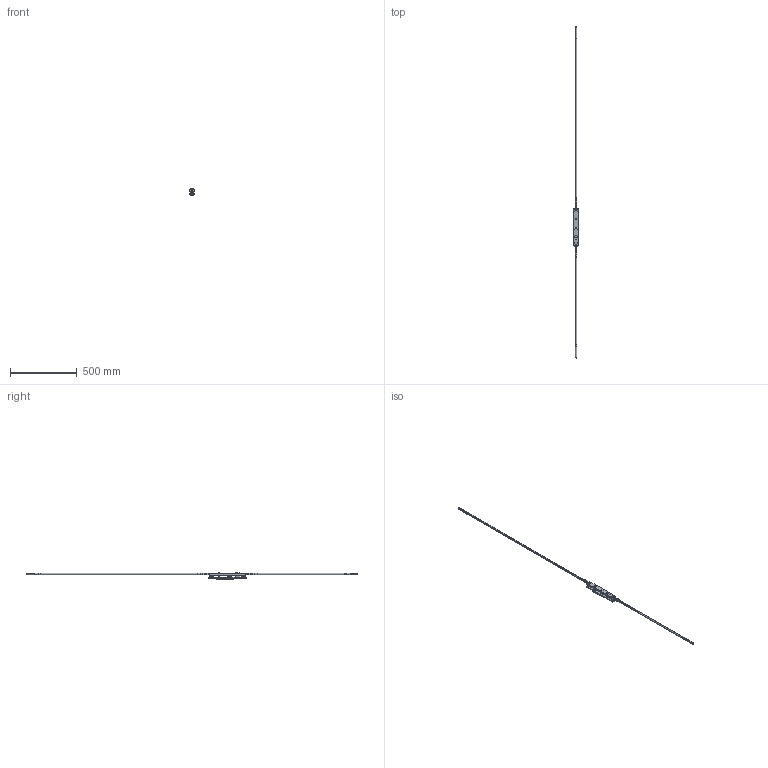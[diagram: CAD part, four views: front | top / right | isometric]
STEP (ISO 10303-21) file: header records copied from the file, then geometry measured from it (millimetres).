
FILE_DESCRIPTION (( 'STEP AP214' ), '1' );
FILE_NAME ('TPL-H-APC-104-C 17Oct2024.STEP', '2024-10-17T04:34:24', ( '' ), ( '' ), 'SwSTEP 2.0', 'SolidWorks 2023', '' );
FILE_SCHEMA (( 'AUTOMOTIVE_DESIGN' ));
Length unit declared in the file: millimetre
Products named in the file (17): Copy of LKC-576 Bolt adaptor - simplified^TPL-H-APC-605 16Oct2024; Copy of TPLGen2 lock body keyed assembly^TPL-H-APC-605 16Oct2024_Bolts extended - left; Copy of TPLGen2 push rod - simplified^Copy of TPLGen2 lock body keyed assembly_TPL-H-APC-605 16Oct2024_Female thread M10; Copy of TPLGen2 lock body keyed^Copy of TPLGen2 lock body keyed assembly_TPL-H-APC-605 16Oct2024_Left; Copy of TPL-H-APC-517 04Oct2024^TPL-H-APC-605 16Oct2024; Copy (2) of LKC-540 Transmission rod aluminium system TPLGen2^TPL-H-APC-605 16Oct2024_2885mm; TPL-H-APC-104-C 17Oct2024; Copy of LKC-585 Rotator body zinc^Copy of TPGen2 handle keyed internal zinc - simplified_TPL-H-APC-605 16Oct2024; Copy of TPL-023 Lock cylinder single 5 pin 32mm^TPL-H-APC-605 16Oct2024_Left; Copy of LKC-512 Escutcheon plate keyed internal 285mm long zinc - simplified^Copy of TPGen2 handle keyed internal zinc - simplified_TPL-H-APC-605 16Oct2024; Copy of TPL-H-APC-515 04Oct2024^TPL-H-APC-605 16Oct2024; Copy of LKC-505 Swing handle zinc - simplified^Copy of TPGen2 handle keyed internal zinc - simplified_TPL-H-APC-605 16Oct2024; Copy of LKC-532 Rod connector - simplified^TPL-H-APC-605 16Oct2024; Copy of LKC-584 Pivot body zinc - simplified^Copy of TPGen2 handle keyed internal zinc - simplified_TPL-H-APC-605 16Oct2024; Copy of LKC-540 Transmission rod aluminium system TPLGen2^TPL-H-APC-605 16Oct2024_2885mm; Copy of TPGen2 handle keyed internal zinc - simplified^TPL-H-APC-605 16Oct2024_Vertical; Copy of LKC-586 Spindle square 8mm with M4 hole^Copy of TPGen2 handle keyed internal zinc - simplified_TPL-H-APC-605 16Oct2024_37mm
Assembly tree (22 placements, depth 3):
  TPL-H-APC-104-C 17Oct2024
    Copy of TPLGen2 lock body keyed assembly^TPL-H-APC-605 16Oct2024_Bolts extended - left
      Copy of TPLGen2 lock body keyed^Copy of TPLGen2 lock body keyed assembly_TPL-H-APC-605 16Oct2024_Left
      Copy of TPLGen2 push rod - simplified^Copy of TPLGen2 lock body keyed assembly_TPL-H-APC-605 16Oct2024_Female thread M10  x2
    Copy of TPGen2 handle keyed internal zinc - simplified^TPL-H-APC-605 16Oct2024_Vertical
      Copy of LKC-512 Escutcheon plate keyed internal 285mm long zinc - simplified^Copy of TPGen2 handle keyed internal zinc - simplified_TPL-H-APC-605 16Oct2024
      Copy of LKC-505 Swing handle zinc - simplified^Copy of TPGen2 handle keyed internal zinc - simplified_TPL-H-APC-605 16Oct2024
      Copy of LKC-585 Rotator body zinc^Copy of TPGen2 handle keyed internal zinc - simplified_TPL-H-APC-605 16Oct2024
      Copy of LKC-586 Spindle square 8mm with M4 hole^Copy of TPGen2 handle keyed internal zinc - simplified_TPL-H-APC-605 16Oct2024_37mm
      Copy of LKC-584 Pivot body zinc - simplified^Copy of TPGen2 handle keyed internal zinc - simplified_TPL-H-APC-605 16Oct2024
    Copy of LKC-532 Rod connector - simplified^TPL-H-APC-605 16Oct2024  x2
    Copy of LKC-540 Transmission rod aluminium system TPLGen2^TPL-H-APC-605 16Oct2024_2885mm
    Copy (2) of LKC-540 Transmission rod aluminium system TPLGen2^TPL-H-APC-605 16Oct2024_2885mm
    Copy of LKC-576 Bolt adaptor - simplified^TPL-H-APC-605 16Oct2024  x2
    Copy of TPL-H-APC-517 04Oct2024^TPL-H-APC-605 16Oct2024  x2
    Copy of TPL-H-APC-515 04Oct2024^TPL-H-APC-605 16Oct2024  x3
    Copy of TPL-023 Lock cylinder single 5 pin 32mm^TPL-H-APC-605 16Oct2024_Left
Bounding box: 35 x 2495.9 x 51.46 mm (x, y, z)
Volume: 341166.2 mm3; surface area: 230537.4 mm2
Topology: 20 solids, 20 shells, 1318 faces, 3204 edges, 1940 vertices
Faces by surface type: cylinder 430, plane 395, bspline 224, cone 123, torus 113, sphere 33
Entity records: 33145 total; most frequent: CARTESIAN_POINT 13167, ORIENTED_EDGE 4212, DIRECTION 3909, EDGE_CURVE 2106, AXIS2_PLACEMENT_3D 1549, VERTEX_POINT 1285, EDGE_LOOP 987, FACE_OUTER_BOUND 888
